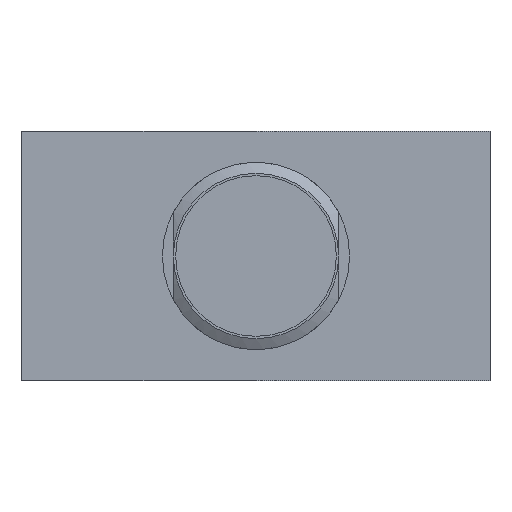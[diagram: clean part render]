
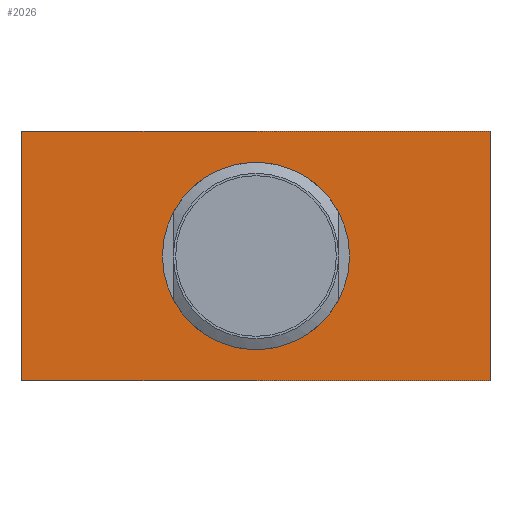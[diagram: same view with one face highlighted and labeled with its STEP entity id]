
A CAD part, front view. The second image highlights one B-rep face of the part: STEP entity #2026.
In plain terms, the highlighted planar face has unit normal (0, -1, 0) as drawn and (0, 0, -1) by its records, which use the part's own axes.
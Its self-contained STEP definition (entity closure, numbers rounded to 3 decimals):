
#294=FACE_OUTER_BOUND('',#422,.T.);
#422=EDGE_LOOP('',(#1302,#1303,#1304,#1305));
#566=LINE('',#3105,#690);
#567=LINE('',#3107,#691);
#568=LINE('',#3109,#692);
#569=LINE('',#3110,#693);
#690=VECTOR('',#2489,1.25);
#691=VECTOR('',#2490,30.);
#692=VECTOR('',#2491,16.);
#693=VECTOR('',#2492,30.);
#814=VERTEX_POINT('',#3103);
#815=VERTEX_POINT('',#3104);
#816=VERTEX_POINT('',#3106);
#817=VERTEX_POINT('',#3108);
#1004=EDGE_CURVE('',#814,#815,#566,.T.);
#1005=EDGE_CURVE('',#816,#814,#567,.T.);
#1006=EDGE_CURVE('',#817,#816,#568,.T.);
#1007=EDGE_CURVE('',#815,#817,#569,.T.);
#1302=ORIENTED_EDGE('',*,*,#1004,.F.);
#1303=ORIENTED_EDGE('',*,*,#1005,.F.);
#1304=ORIENTED_EDGE('',*,*,#1006,.F.);
#1305=ORIENTED_EDGE('',*,*,#1007,.F.);
#1898=PLANE('',#2237);
#2026=ADVANCED_FACE('',(#294),#1898,.T.);
#2237=AXIS2_PLACEMENT_3D('',#3102,#2487,#2488);
#2487=DIRECTION('center_axis',(0.,0.,-1.));
#2488=DIRECTION('ref_axis',(-1.,0.,0.));
#2489=DIRECTION('',(0.,1.,0.));
#2490=DIRECTION('',(1.,0.,0.));
#2491=DIRECTION('',(0.,-1.,0.));
#2492=DIRECTION('',(-1.,0.,0.));
#3102=CARTESIAN_POINT('Origin',(15.,-2.2,-43.));
#3103=CARTESIAN_POINT('',(15.,-16.,-43.));
#3104=CARTESIAN_POINT('',(15.,0.,-43.));
#3105=CARTESIAN_POINT('',(15.,-1.25,-43.));
#3106=CARTESIAN_POINT('',(-15.,-16.,-43.));
#3107=CARTESIAN_POINT('',(-15.,-16.,-43.));
#3108=CARTESIAN_POINT('',(-15.,0.,-43.));
#3109=CARTESIAN_POINT('',(-15.,0.,-43.));
#3110=CARTESIAN_POINT('',(15.,0.,-43.));
